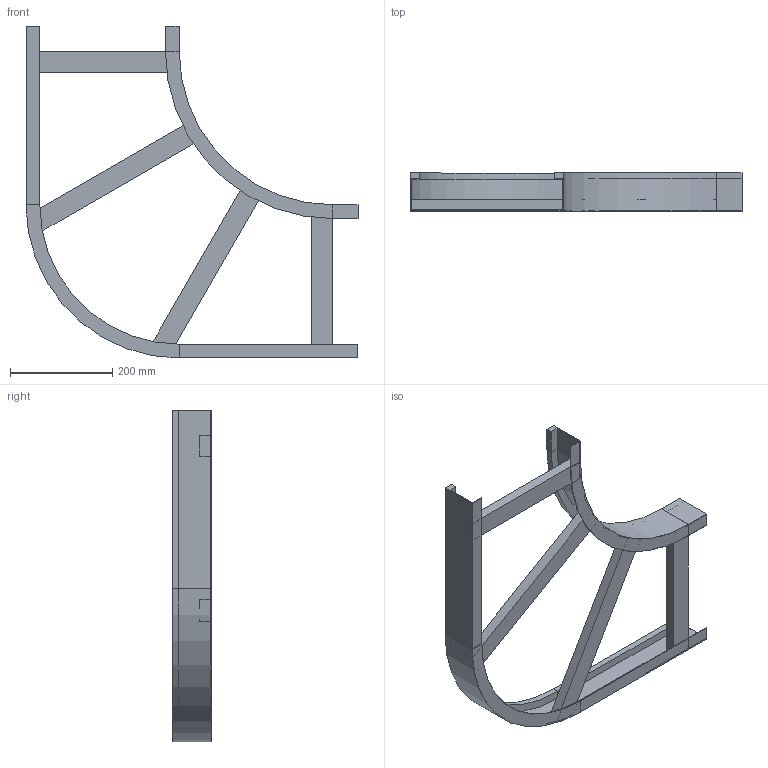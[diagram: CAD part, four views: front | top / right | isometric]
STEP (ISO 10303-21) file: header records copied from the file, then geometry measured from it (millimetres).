
FILE_DESCRIPTION (( 'STEP AP214' ), '1' );
FILE_NAME ('B2_10B3C300.step', '2025-02-21T15:26:54', ( '' ), ( '' ), 'SwSTEP 2.0', 'SolidWorks 2023', '' );
FILE_SCHEMA (( 'AUTOMOTIVE_DESIGN' ));
Length unit declared in the file: millimetre
Products named in the file (5): TRAVERSINO_300; B2_LONGH.INTERNO 90°_H75_R300; B2_LONGH.ESTERNO 90°_H75_R300+300; TRAVERSINO_400_SCANTONATO; B2_10B3C300
Assembly tree (6 placements, depth 2):
  B2_10B3C300
    B2_LONGH.INTERNO 90°_H75_R300
    B2_LONGH.ESTERNO 90°_H75_R300+300
    TRAVERSINO_300  x2
    TRAVERSINO_400_SCANTONATO  x2
Bounding box: 650 x 75 x 650 mm (x, y, z)
Volume: 1784651.3 mm3; surface area: 583954.6 mm2
Topology: 6 solids, 6 shells, 76 faces, 160 edges, 96 vertices
Faces by surface type: plane 68, cylinder 8
Entity records: 1830 total; most frequent: DIRECTION 298, CARTESIAN_POINT 289, ORIENTED_EDGE 272, EDGE_CURVE 136, VECTOR 120, LINE 120, AXIS2_PLACEMENT_3D 89, VERTEX_POINT 80
